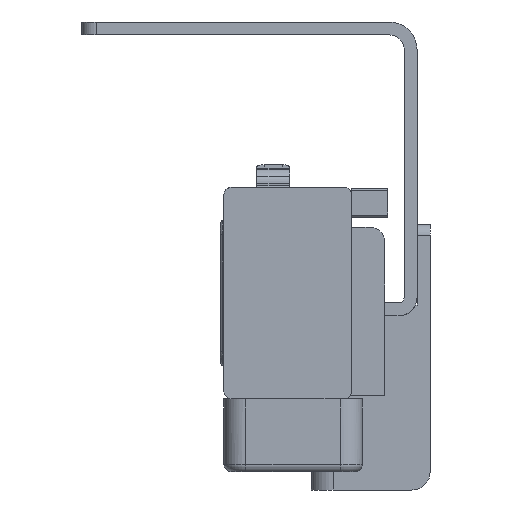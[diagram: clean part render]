
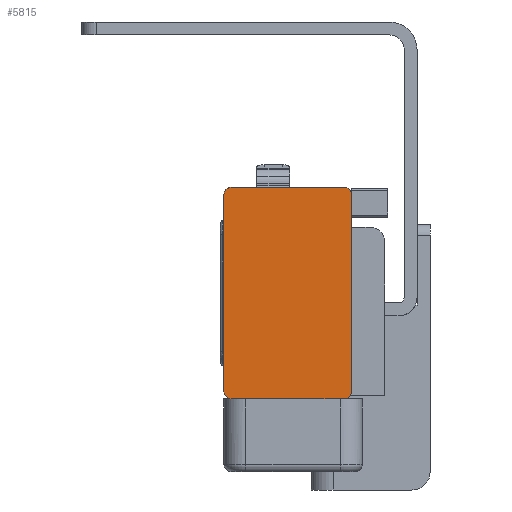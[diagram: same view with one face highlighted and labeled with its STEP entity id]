
A CAD part, left-side view. The second image highlights one B-rep face of the part: STEP entity #5815.
In plain terms, the highlighted planar face has unit normal (-1, 0, 0).
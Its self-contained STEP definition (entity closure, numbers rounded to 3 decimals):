
#94 = ORIENTED_EDGE ( 'NONE', *, *, #5664, .T. ) ;
#310 = DIRECTION ( 'NONE',  ( 0., 0., 1. ) ) ;
#425 = CARTESIAN_POINT ( 'NONE',  ( -376.999, 25.53, 17.6 ) ) ;
#462 = ORIENTED_EDGE ( 'NONE', *, *, #7404, .T. ) ;
#492 = CARTESIAN_POINT ( 'NONE',  ( -376.999, 9., -10.43 ) ) ;
#611 = EDGE_CURVE ( 'NONE', #1983, #2349, #7660, .T. ) ;
#665 = DIRECTION ( 'NONE',  ( -1., 0., 0. ) ) ;
#669 = PLANE ( 'NONE',  #1396 ) ;
#708 = ORIENTED_EDGE ( 'NONE', *, *, #5418, .T. ) ;
#761 = CARTESIAN_POINT ( 'NONE',  ( -376.999, 25.5, 17.6 ) ) ;
#783 = CARTESIAN_POINT ( 'NONE',  ( -376.999, 25.5, 16.6 ) ) ;
#960 = DIRECTION ( 'NONE',  ( 0., -1., 0. ) ) ;
#1184 = VECTOR ( 'NONE', #5896, 1000. ) ;
#1357 = VERTEX_POINT ( 'NONE', #425 ) ;
#1377 = AXIS2_PLACEMENT_3D ( 'NONE', #2771, #6877, #3376 ) ;
#1396 = AXIS2_PLACEMENT_3D ( 'NONE', #3078, #2499, #6614 ) ;
#1400 = DIRECTION ( 'NONE',  ( 0., 0., -1. ) ) ;
#1504 = CARTESIAN_POINT ( 'NONE',  ( -376.999, 25.5, -10.43 ) ) ;
#1586 = CARTESIAN_POINT ( 'NONE',  ( -376.999, 10., -11.43 ) ) ;
#1749 = CARTESIAN_POINT ( 'NONE',  ( -376.999, 26.5, -10.43 ) ) ;
#1864 = AXIS2_PLACEMENT_3D ( 'NONE', #4269, #665, #4862 ) ;
#1983 = VERTEX_POINT ( 'NONE', #492 ) ;
#2098 = DIRECTION ( 'NONE',  ( 0., 0., -1. ) ) ;
#2103 = CARTESIAN_POINT ( 'NONE',  ( -376.999, 9., 16.6 ) ) ;
#2218 = FACE_OUTER_BOUND ( 'NONE', #7605, .T. ) ;
#2225 = VECTOR ( 'NONE', #960, 1000. ) ;
#2349 = VERTEX_POINT ( 'NONE', #2103 ) ;
#2355 = CARTESIAN_POINT ( 'NONE',  ( -376.999, 26.5, -10.43 ) ) ;
#2408 = EDGE_CURVE ( 'NONE', #2441, #1983, #2957, .T. ) ;
#2441 = VERTEX_POINT ( 'NONE', #1586 ) ;
#2499 = DIRECTION ( 'NONE',  ( 1., 0., 0. ) ) ;
#2600 = LINE ( 'NONE', #2355, #1184 ) ;
#2706 = DIRECTION ( 'NONE',  ( 0., 0., -1. ) ) ;
#2771 = CARTESIAN_POINT ( 'NONE',  ( -376.999, 10., -10.43 ) ) ;
#2931 = CARTESIAN_POINT ( 'NONE',  ( -376.999, 10., 17.6 ) ) ;
#2938 = ORIENTED_EDGE ( 'NONE', *, *, #611, .T. ) ;
#2957 = CIRCLE ( 'NONE', #1377, 1. ) ;
#3078 = CARTESIAN_POINT ( 'NONE',  ( -376.999, 25.53, 16.63 ) ) ;
#3258 = VERTEX_POINT ( 'NONE', #1749 ) ;
#3299 = EDGE_CURVE ( 'NONE', #3626, #6094, #5901, .T. ) ;
#3367 = ORIENTED_EDGE ( 'NONE', *, *, #3299, .T. ) ;
#3376 = DIRECTION ( 'NONE',  ( 0., 0., -1. ) ) ;
#3466 = CIRCLE ( 'NONE', #3760, 1. ) ;
#3559 = ORIENTED_EDGE ( 'NONE', *, *, #7157, .T. ) ;
#3626 = VERTEX_POINT ( 'NONE', #2931 ) ;
#3700 = AXIS2_PLACEMENT_3D ( 'NONE', #783, #4969, #1400 ) ;
#3760 = AXIS2_PLACEMENT_3D ( 'NONE', #1504, #5651, #2098 ) ;
#3812 = LINE ( 'NONE', #7438, #2225 ) ;
#4269 = CARTESIAN_POINT ( 'NONE',  ( -376.999, 10., 16.6 ) ) ;
#4295 = LINE ( 'NONE', #4451, #7038 ) ;
#4451 = CARTESIAN_POINT ( 'NONE',  ( -376.999, 25.53, 17.6 ) ) ;
#4549 = CARTESIAN_POINT ( 'NONE',  ( -376.999, 9., 16.6 ) ) ;
#4577 = VECTOR ( 'NONE', #310, 1000. ) ;
#4825 = VERTEX_POINT ( 'NONE', #7356 ) ;
#4862 = DIRECTION ( 'NONE',  ( 0., 0., -1. ) ) ;
#4969 = DIRECTION ( 'NONE',  ( -1., 0., 0. ) ) ;
#5177 = ORIENTED_EDGE ( 'NONE', *, *, #2408, .T. ) ;
#5218 = VERTEX_POINT ( 'NONE', #6044 ) ;
#5369 = ORIENTED_EDGE ( 'NONE', *, *, #6600, .T. ) ;
#5418 = EDGE_CURVE ( 'NONE', #1357, #4825, #7554, .T. ) ;
#5537 = DIRECTION ( 'NONE',  ( 0., 1., 0. ) ) ;
#5651 = DIRECTION ( 'NONE',  ( -1., 0., 0. ) ) ;
#5664 = EDGE_CURVE ( 'NONE', #4825, #3258, #2600, .T. ) ;
#5702 = VECTOR ( 'NONE', #5537, 1000. ) ;
#5815 = ADVANCED_FACE ( 'NONE', ( #2218 ), #669, .F. ) ;
#5861 = ORIENTED_EDGE ( 'NONE', *, *, #7676, .T. ) ;
#5896 = DIRECTION ( 'NONE',  ( 0., 0., -1. ) ) ;
#5901 = LINE ( 'NONE', #761, #5702 ) ;
#6026 = CIRCLE ( 'NONE', #1864, 1. ) ;
#6044 = CARTESIAN_POINT ( 'NONE',  ( -376.999, 25.5, -11.43 ) ) ;
#6094 = VERTEX_POINT ( 'NONE', #6305 ) ;
#6305 = CARTESIAN_POINT ( 'NONE',  ( -376.999, 25.53, 17.6 ) ) ;
#6600 = EDGE_CURVE ( 'NONE', #3258, #5218, #3466, .T. ) ;
#6614 = DIRECTION ( 'NONE',  ( 0., 0., -1. ) ) ;
#6877 = DIRECTION ( 'NONE',  ( -1., 0., 0. ) ) ;
#7038 = VECTOR ( 'NONE', #2706, 1000. ) ;
#7157 = EDGE_CURVE ( 'NONE', #6094, #1357, #4295, .T. ) ;
#7356 = CARTESIAN_POINT ( 'NONE',  ( -376.999, 26.5, 16.6 ) ) ;
#7404 = EDGE_CURVE ( 'NONE', #2349, #3626, #6026, .T. ) ;
#7438 = CARTESIAN_POINT ( 'NONE',  ( -376.999, 10., -11.43 ) ) ;
#7554 = CIRCLE ( 'NONE', #3700, 1. ) ;
#7605 = EDGE_LOOP ( 'NONE', ( #2938, #462, #3367, #3559, #708, #94, #5369, #5861, #5177 ) ) ;
#7660 = LINE ( 'NONE', #4549, #4577 ) ;
#7676 = EDGE_CURVE ( 'NONE', #5218, #2441, #3812, .T. ) ;
